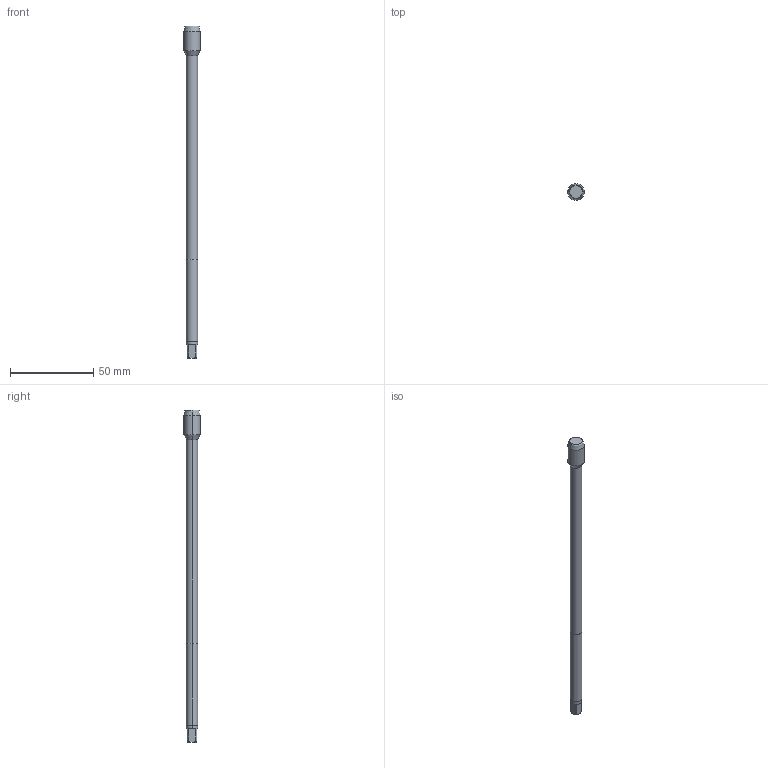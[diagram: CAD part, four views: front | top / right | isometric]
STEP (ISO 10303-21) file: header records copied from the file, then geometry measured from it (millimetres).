
FILE_DESCRIPTION(('STEP AP214'),'1');
FILE_NAME('cctmp_783B2479-68A6-4A2B-81D7-45DA69AC1217_2021_01_21_15_37_53_0773..stp','2021-01-21T14:37:53',('Meusburger Georg GmbH & Co KG'),('CADClick - www.CADClick.com'),'Spatial InterOp 3D',' ','unknown authorization');
FILE_SCHEMA(('AUTOMOTIVE_DESIGN { 1 0 10303 214 1 1 1 1 }'));
Length unit declared in the file: millimetre
Products named in the file (1): WZG341219_10
Bounding box: 10 x 10 x 200 mm (x, y, z)
Volume: 7953.4 mm3; surface area: 4547.7 mm2
Topology: 1 solids, 1 shells, 33 faces, 76 edges, 46 vertices
Faces by surface type: cone 14, plane 11, cylinder 8
Entity records: 1212 total; most frequent: CARTESIAN_POINT 172, DIRECTION 170, ORIENTED_EDGE 152, EDGE_CURVE 76, AXIS2_PLACEMENT_3D 68, VERTEX_POINT 46, STYLED_ITEM 34, PRESENTATION_STYLE_ASSIGNMENT 34
